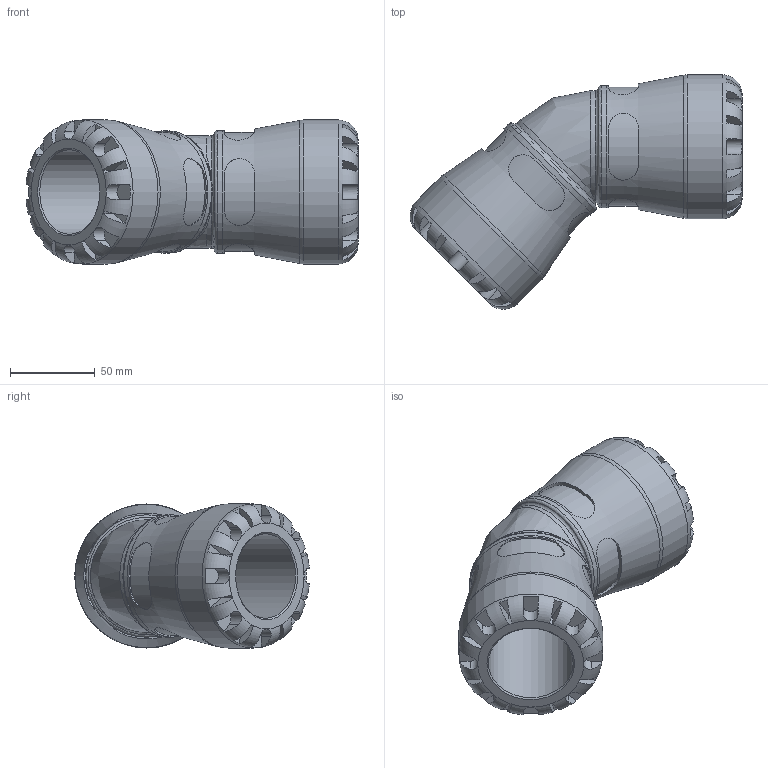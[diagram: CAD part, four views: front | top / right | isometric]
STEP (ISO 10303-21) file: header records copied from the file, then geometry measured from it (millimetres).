
FILE_DESCRIPTION(/* description */ ('PLASSON 45° ELBOW 50-50 SERIES 1'),/* implementation_level */ '2;1');
FILE_NAME(/* name */ 'C:\Dropbox\KIMPROJECTS-Inventor\99-16-3568-Processing\1006\100600050_190600050.ipt.stp',/* time_stamp */ '2017-01-22T11:45:33+02:00',/* author */ ('KIM'),/* organization */ (''),/* preprocessor_version */ 'ST-DEVELOPER v15.6',/* originating_system */ 'Autodesk Inventor 2015',/* authorisation */ '');
FILE_SCHEMA (('AUTOMOTIVE_DESIGN { 1 0 10303 214 3 1 1 }'));
Length unit declared in the file: millimetre
Products named in the file (1): 100600050_190600050
Bounding box: 195.91 x 138.41 x 85 mm (x, y, z)
Volume: 548743.5 mm3; surface area: 91407.2 mm2
Topology: 1 solids, 1 shells, 196 faces, 498 edges, 310 vertices
Faces by surface type: plane 116, cylinder 66, torus 11, cone 2, bspline 1
Full cylindrical faces by diameter (mm): 41.667 x2, 50 x2, 72.25 x2, 85 x2
Entity records: 7544 total; most frequent: CARTESIAN_POINT 2905, ORIENTED_EDGE 922, DIRECTION 896, EDGE_CURVE 461, AXIS2_PLACEMENT_3D 368, VERTEX_POINT 298, EDGE_LOOP 229, STYLED_ITEM 197
